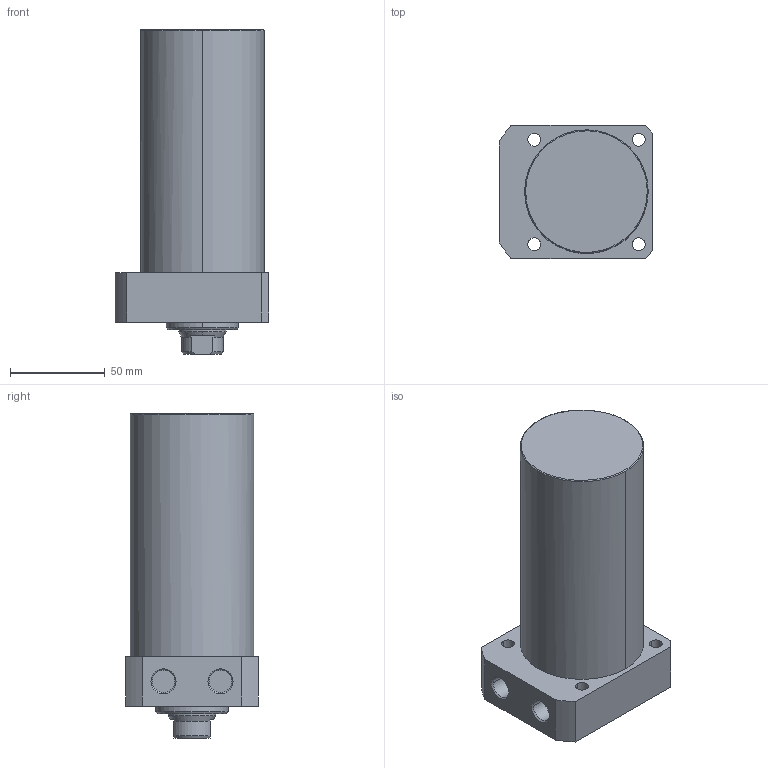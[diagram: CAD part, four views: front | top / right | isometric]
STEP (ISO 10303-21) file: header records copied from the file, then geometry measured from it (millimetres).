
FILE_DESCRIPTION((' '),'2;1');
FILE_NAME( 'TLLR-065CA-095.STEP.stp', '2025-10-24T16:34:53', (' '), ('--- Datakit www.datakit.com---'), ' Datakit CrossCadWare V2024.1 Dec 21 2023', 'Mastercam 2025', ' ');
FILE_SCHEMA(('AUTOMOTIVE_DESIGN { 1 0 10303 214 1 1 1 1 }'));
Length unit declared in the file: millimetre
Products named in the file (1): TLLR-065CA-095
Bounding box: 81 x 70 x 171 mm (x, y, z)
Volume: 568716.3 mm3; surface area: 50567.9 mm2
Topology: 1 solids, 1 shells, 63 faces, 179 edges, 124 vertices
Faces by surface type: cylinder 28, plane 19, cone 14, torus 2
Entity records: 2174 total; most frequent: DIRECTION 402, CARTESIAN_POINT 397, ORIENTED_EDGE 354, EDGE_CURVE 177, AXIS2_PLACEMENT_3D 169, VERTEX_POINT 124, CIRCLE 105, EDGE_LOOP 79
